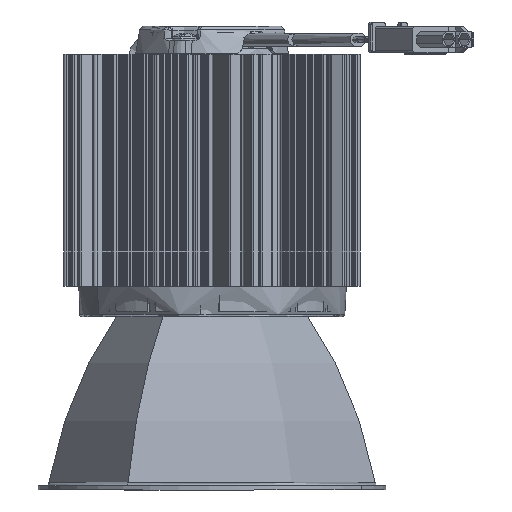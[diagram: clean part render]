
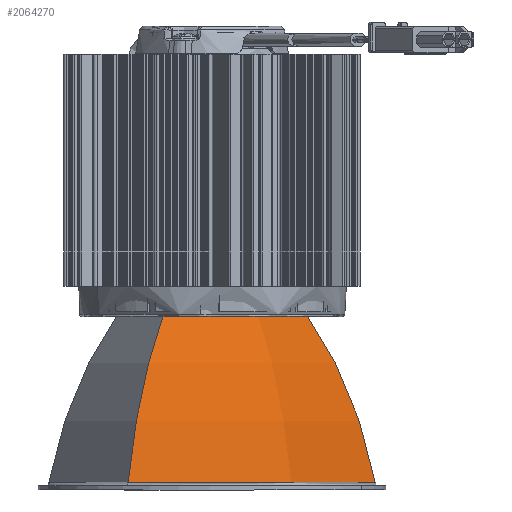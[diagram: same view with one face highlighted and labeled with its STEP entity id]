
A CAD part, left-side view. The second image highlights one B-rep face of the part: STEP entity #2064270.
In plain terms, the highlighted toroidal (fillet/blend) face has major radius 59.221 mm and minor radius 96 mm.
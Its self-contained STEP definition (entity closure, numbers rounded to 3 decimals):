
#2057430=CARTESIAN_POINT('',(-27.977,-21.371,
-42.312));
#2057440=VERTEX_POINT('',#2057430);
#2057630=CARTESIAN_POINT('',(27.992,21.384,
-42.312));
#2057640=VERTEX_POINT('',#2057630);
#2057670=CARTESIAN_POINT('',(0.007,0.006,
-42.312));
#2057680=DIRECTION('',(0.,0.,-1.));
#2057690=DIRECTION('',(-0.795,-0.607,
0.));
#2057700=AXIS2_PLACEMENT_3D('',#2057670,#2057680,#2057690);
#2057710=CIRCLE('',#2057700,35.215);
#2059390=CARTESIAN_POINT('',(-15.542,-11.872,
-4.722));
#2059400=VERTEX_POINT('',#2059390);
#2059430=CARTESIAN_POINT('',(0.007,0.006,
-4.722));
#2059440=DIRECTION('',(0.,0.,-1.));
#2059450=DIRECTION('',(-0.795,-0.607,
0.));
#2059460=AXIS2_PLACEMENT_3D('',#2059430,#2059440,#2059450);
#2059470=CIRCLE('',#2059460,19.567);
#2059480=CARTESIAN_POINT('',(15.557,11.885,
-4.722));
#2059490=VERTEX_POINT('',#2059480);
#2060300=EDGE_CURVE('',#2059490,#2059400,#2059470,.T.);
#2060540=EDGE_CURVE('',#2057640,#2057440,#2057710,.T.);
#2063970=CARTESIAN_POINT('',(47.068,35.956,
-59.571));
#2063980=DIRECTION('',(-0.607,0.795,
0.));
#2063990=DIRECTION('',(-0.795,-0.607,
0.));
#2064000=AXIS2_PLACEMENT_3D('',#2063970,#2063980,#2063990);
#2064010=CIRCLE('',#2064000,96.);
#2064020=EDGE_CURVE('',#2057440,#2059400,#2064010,.T.);
#2064050=CARTESIAN_POINT('',(-47.053,-35.943,
-59.571));
#2064060=DIRECTION('',(0.607,-0.795,
0.));
#2064070=DIRECTION('',(0.795,0.607,
0.));
#2064080=AXIS2_PLACEMENT_3D('',#2064050,#2064060,#2064070);
#2064090=CIRCLE('',#2064080,96.);
#2064100=EDGE_CURVE('',#2057640,#2059490,#2064090,.T.);
#2064160=CARTESIAN_POINT('',(0.007,0.006,
-59.571));
#2064170=DIRECTION('',(0.,0.,-1.));
#2064180=DIRECTION('',(0.795,0.607,
0.));
#2064190=AXIS2_PLACEMENT_3D('',#2064160,#2064170,#2064180);
#2064200=DEGENERATE_TOROIDAL_SURFACE('',#2064190,59.221,96.,
.F.);
#2064210=ORIENTED_EDGE('',*,*,#2060540,.F.);
#2064220=ORIENTED_EDGE('',*,*,#2064020,.F.);
#2064230=ORIENTED_EDGE('',*,*,#2060300,.T.);
#2064240=ORIENTED_EDGE('',*,*,#2064100,.T.);
#2064250=EDGE_LOOP('',(#2064240,#2064230,#2064220,#2064210));
#2064260=FACE_OUTER_BOUND('',#2064250,.T.);
#2064270=ADVANCED_FACE('',(#2064260),#2064200,.F.);
